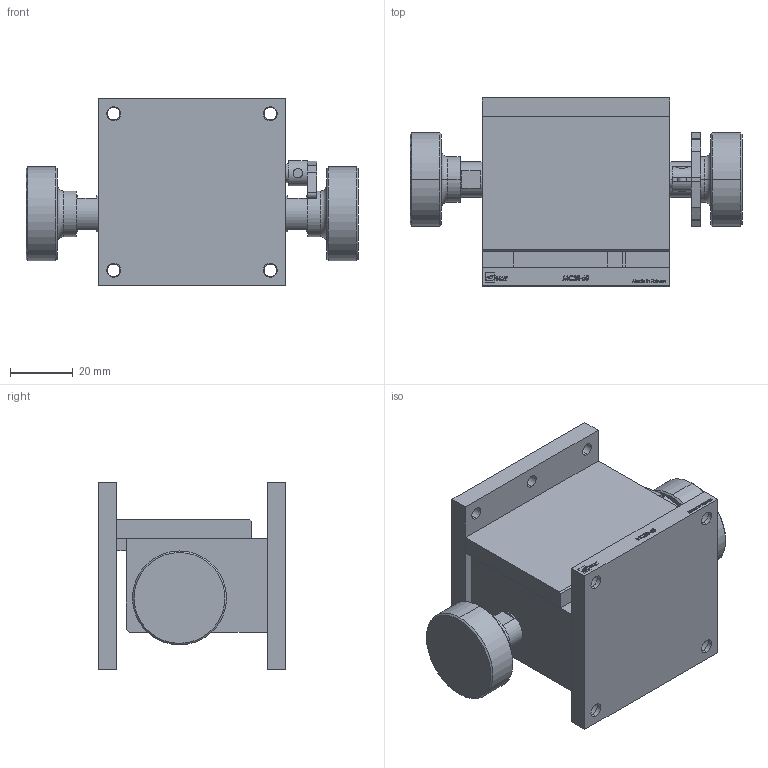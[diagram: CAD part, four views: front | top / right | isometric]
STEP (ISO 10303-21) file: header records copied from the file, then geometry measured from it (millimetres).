
FILE_DESCRIPTION (( 'STEP AP203' ), '1' );
FILE_NAME ('MC3B-60.STEP', '2008-07-21T06:31:46', ( 'user' ), ( '' ), 'SwSTEP 2.0', 'SolidWorks 2007', '' );
FILE_SCHEMA (( 'CONFIG_CONTROL_DESIGN' ));
Length unit declared in the file: millimetre
Products named in the file (1): MC3B-60
Bounding box: 106 x 60 x 60 mm (x, y, z)
Volume: 155652.1 mm3; surface area: 43227.2 mm2
Topology: 7 solids, 7 shells, 546 faces, 1441 edges, 953 vertices
Faces by surface type: plane 292, cylinder 121, bspline 113, cone 12, torus 8
Entity records: 23338 total; most frequent: CARTESIAN_POINT 10186, ORIENTED_EDGE 2878, DIRECTION 2361, EDGE_CURVE 1439, VERTEX_POINT 953, VECTOR 913, LINE 913, AXIS2_PLACEMENT_3D 724
